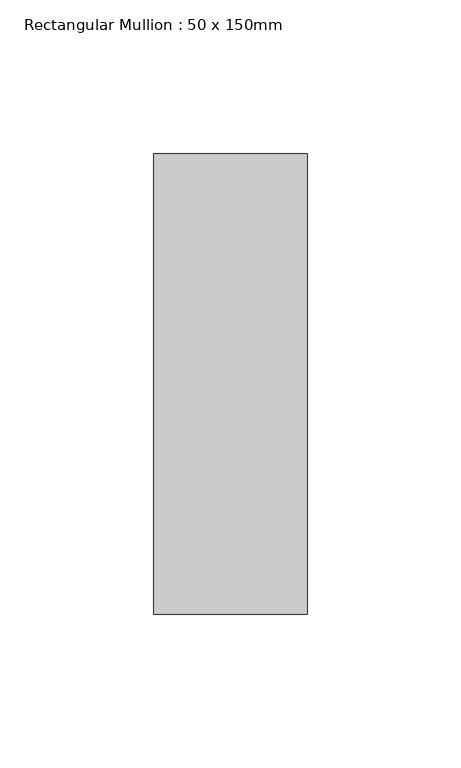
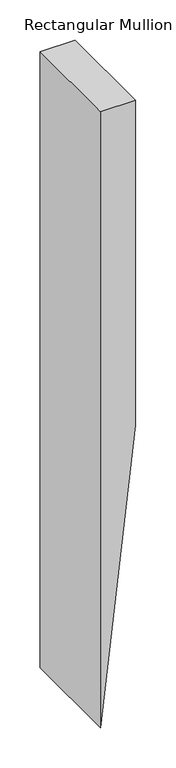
"""IFC4 building model written with IfcOpenShell, lengths in millimetres: member geometry, Rectangular Mullion : 50 x 150mm."""

from ifc_helpers import new_model, si_unit, frame, origin, place, context, project, spatial, polyline, outline, extrude, source, transform, mapped, element, save


def rectangular_mullion_50_x_150mm_2907f460(model_context):
    return source(origin(), model_context, "Body", "SweptSolid", [
        extrude(outline(polyline([(0.0, 25.0), (0.0, -25.0), (-931.8745518, -25.0), (-491.6304206, 25.0), (0.0, 25.0)])), frame((0.0, -75.0, 0.0), z_axis=(0.0, 1.0, 0.0), x_axis=(0.0, 0.0, 1.0)), (0.0, 0.0, 1.0), 150.0),
    ])


if __name__ == "__main__":
    model = new_model("IFC4")
    model_context = context("Model", 3, world=origin())
    ifc_project = project(units=[si_unit("LENGTHUNIT", "METRE", prefix="MILLI")], contexts=[model_context])
    site = spatial("IfcSite", under=ifc_project)
    building = spatial("IfcBuilding", under=site)
    placement = place(None, origin())
    rectangular_mullion_50_x_150mm_shape = rectangular_mullion_50_x_150mm_2907f460(model_context)
    element("IfcMember", 1, ObjectType="Rectangular Mullion : 50 x 150mm", at=placement, inside=building, context=model_context, shape_type="MappedRepresentation", body=[
        mapped(rectangular_mullion_50_x_150mm_shape, transform((0.0, 0.0, 0.0), x_axis=(1.0, 0.0, 0.0), y_axis=(0.0, 1.0, 0.0), z_axis=(0.0, 0.0, 1.0))),
    ])
    save(model, "model.ifc")
